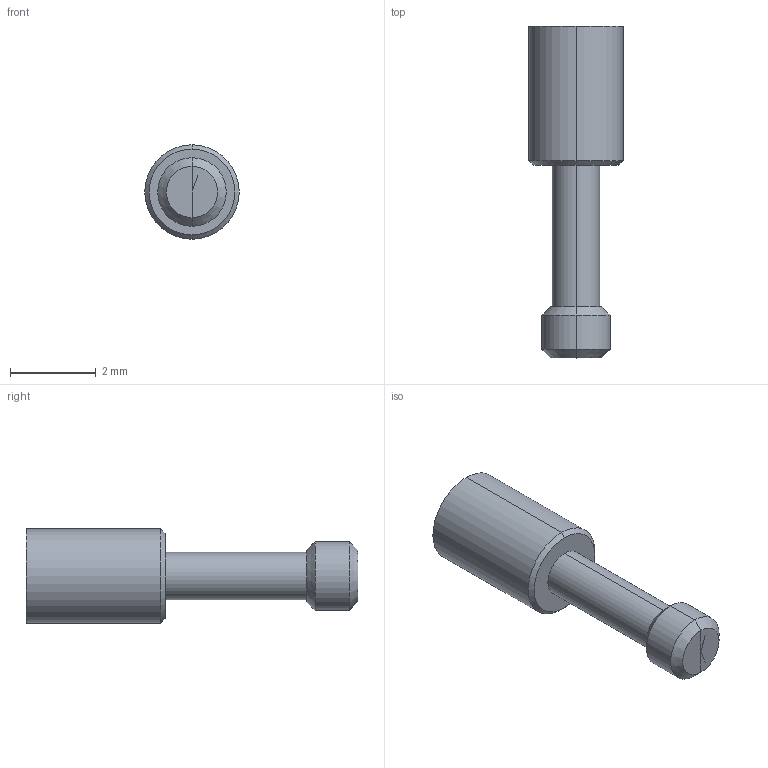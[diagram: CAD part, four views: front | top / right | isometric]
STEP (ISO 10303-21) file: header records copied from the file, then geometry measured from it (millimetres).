
FILE_DESCRIPTION (( 'STEP AP214' ), '1' );
FILE_NAME ('IA 227520.STEP', '2013-10-01T10:32:05', ( '' ), ( '' ), 'SwSTEP 2.0', 'SolidWorks 2011', '' );
FILE_SCHEMA (( 'AUTOMOTIVE_DESIGN' ));
Length unit declared in the file: millimetre
Products named in the file (1): IA 227520
Bounding box: 2.2 x 7.75 x 2.2 mm (x, y, z)
Volume: 17.6 mm3; surface area: 50.1 mm2
Topology: 1 solids, 1 shells, 50 faces, 121 edges, 77 vertices
Faces by surface type: plane 22, cylinder 20, cone 8
Entity records: 1509 total; most frequent: DIRECTION 267, CARTESIAN_POINT 247, ORIENTED_EDGE 238, EDGE_CURVE 119, AXIS2_PLACEMENT_3D 97, VERTEX_POINT 77, VECTOR 73, LINE 73
